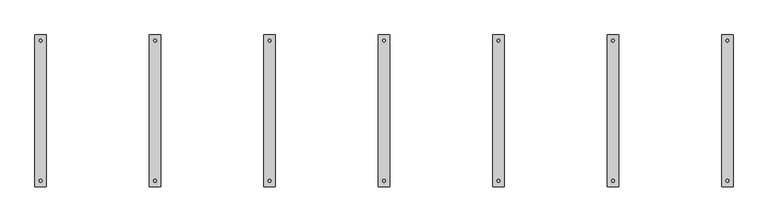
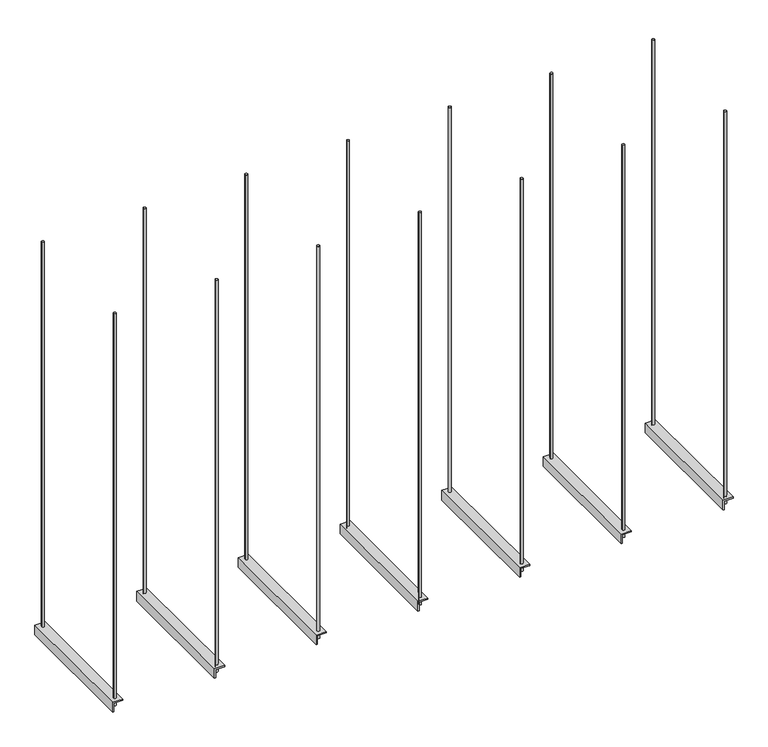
"""IFC4 building model written with IfcOpenShell, lengths in millimetres: damper geometry, 2015_Cuelgue-para-conductos-genérico : Cuelgue de conducto genérico."""

from ifc_helpers import new_model, si_unit, point, frame, frame_2d, origin, place, context, project, spatial, polyline, circle_curve, trimmed, segment, composite_curve, outline, extrude, source, transform, mapped, element, save


def damper_430598d1(model_context):
    return source(origin(), model_context, "Body", "SweptSolid", [
        extrude(outline(composite_curve([segment(trimmed(circle_curve(frame_2d((2400.0, 245.0)), 5.0), [point((2395.0, 245.0))], [point((2405.0, 245.0))], False, "CARTESIAN"), True, "CONTINUOUS"), segment(trimmed(circle_curve(frame_2d((2400.0, 245.0)), 5.0), [point((2405.0, 245.0))], [point((2395.0, 245.0))], False, "CARTESIAN"), True, "CONTINUOUS")], self_intersect=False)), frame((0.0, 0.0, -30.0), z_axis=(0.0, 0.0, 1.0), x_axis=(1.0, 0.0, 0.0)), (0.0, 0.0, 1.0), 1630.0),
        extrude(outline(composite_curve([segment(trimmed(circle_curve(frame_2d((2400.0, -245.0)), 5.0), [point((2395.0, -245.0))], [point((2405.0, -245.0))], False, "CARTESIAN"), True, "CONTINUOUS"), segment(trimmed(circle_curve(frame_2d((2400.0, -245.0)), 5.0), [point((2405.0, -245.0))], [point((2395.0, -245.0))], False, "CARTESIAN"), True, "CONTINUOUS")], self_intersect=False)), frame((0.0, 0.0, -30.0), z_axis=(0.0, 0.0, 1.0), x_axis=(1.0, 0.0, 0.0)), (0.0, 0.0, 1.0), 1630.0),
        extrude(outline(polyline([(0.0, 2380.0), (-40.0, 2380.0), (-40.0, 2385.0), (-5.0, 2385.0), (-5.0, 2420.0), (0.0, 2420.0), (0.0, 2380.0)])), frame((0.0, -265.0, 0.0), z_axis=(0.0, 1.0, 0.0), x_axis=(0.0, 0.0, 1.0)), (0.0, 0.0, 1.0), 530.0),
        extrude(outline(composite_curve([segment(trimmed(circle_curve(frame_2d((2000.0, 245.0)), 5.0), [point((1995.0, 245.0))], [point((2005.0, 245.0))], False, "CARTESIAN"), True, "CONTINUOUS"), segment(trimmed(circle_curve(frame_2d((2000.0, 245.0)), 5.0), [point((2005.0, 245.0))], [point((1995.0, 245.0))], False, "CARTESIAN"), True, "CONTINUOUS")], self_intersect=False)), frame((0.0, 0.0, -30.0), z_axis=(0.0, 0.0, 1.0), x_axis=(1.0, 0.0, 0.0)), (0.0, 0.0, 1.0), 1630.0),
        extrude(outline(composite_curve([segment(trimmed(circle_curve(frame_2d((2000.0, -245.0)), 5.0), [point((1995.0, -245.0))], [point((2005.0, -245.0))], False, "CARTESIAN"), True, "CONTINUOUS"), segment(trimmed(circle_curve(frame_2d((2000.0, -245.0)), 5.0), [point((2005.0, -245.0))], [point((1995.0, -245.0))], False, "CARTESIAN"), True, "CONTINUOUS")], self_intersect=False)), frame((0.0, 0.0, -30.0), z_axis=(0.0, 0.0, 1.0), x_axis=(1.0, 0.0, 0.0)), (0.0, 0.0, 1.0), 1630.0),
        extrude(outline(polyline([(0.0, 1980.0), (-40.0, 1980.0), (-40.0, 1985.0), (-5.0, 1985.0), (-5.0, 2020.0), (0.0, 2020.0), (0.0, 1980.0)])), frame((0.0, -265.0, 0.0), z_axis=(0.0, 1.0, 0.0), x_axis=(0.0, 0.0, 1.0)), (0.0, 0.0, 1.0), 530.0),
        extrude(outline(composite_curve([segment(trimmed(circle_curve(frame_2d((1600.0, 245.0)), 5.0), [point((1595.0, 245.0))], [point((1605.0, 245.0))], False, "CARTESIAN"), True, "CONTINUOUS"), segment(trimmed(circle_curve(frame_2d((1600.0, 245.0)), 5.0), [point((1605.0, 245.0))], [point((1595.0, 245.0))], False, "CARTESIAN"), True, "CONTINUOUS")], self_intersect=False)), frame((0.0, 0.0, -30.0), z_axis=(0.0, 0.0, 1.0), x_axis=(1.0, 0.0, 0.0)), (0.0, 0.0, 1.0), 1630.0),
        extrude(outline(composite_curve([segment(trimmed(circle_curve(frame_2d((1600.0, -245.0)), 5.0), [point((1595.0, -245.0))], [point((1605.0, -245.0))], False, "CARTESIAN"), True, "CONTINUOUS"), segment(trimmed(circle_curve(frame_2d((1600.0, -245.0)), 5.0), [point((1605.0, -245.0))], [point((1595.0, -245.0))], False, "CARTESIAN"), True, "CONTINUOUS")], self_intersect=False)), frame((0.0, 0.0, -30.0), z_axis=(0.0, 0.0, 1.0), x_axis=(1.0, 0.0, 0.0)), (0.0, 0.0, 1.0), 1630.0),
        extrude(outline(polyline([(0.0, 1580.0), (-40.0, 1580.0), (-40.0, 1585.0), (-5.0, 1585.0), (-5.0, 1620.0), (0.0, 1620.0), (0.0, 1580.0)])), frame((0.0, -265.0, 0.0), z_axis=(0.0, 1.0, 0.0), x_axis=(0.0, 0.0, 1.0)), (0.0, 0.0, 1.0), 530.0),
        extrude(outline(composite_curve([segment(trimmed(circle_curve(frame_2d((1200.0, 245.0)), 5.0), [point((1195.0, 245.0))], [point((1205.0, 245.0))], False, "CARTESIAN"), True, "CONTINUOUS"), segment(trimmed(circle_curve(frame_2d((1200.0, 245.0)), 5.0), [point((1205.0, 245.0))], [point((1195.0, 245.0))], False, "CARTESIAN"), True, "CONTINUOUS")], self_intersect=False)), frame((0.0, 0.0, -30.0), z_axis=(0.0, 0.0, 1.0), x_axis=(1.0, 0.0, 0.0)), (0.0, 0.0, 1.0), 1630.0),
        extrude(outline(composite_curve([segment(trimmed(circle_curve(frame_2d((1200.0, -245.0)), 5.0), [point((1195.0, -245.0))], [point((1205.0, -245.0))], False, "CARTESIAN"), True, "CONTINUOUS"), segment(trimmed(circle_curve(frame_2d((1200.0, -245.0)), 5.0), [point((1205.0, -245.0))], [point((1195.0, -245.0))], False, "CARTESIAN"), True, "CONTINUOUS")], self_intersect=False)), frame((0.0, 0.0, -30.0), z_axis=(0.0, 0.0, 1.0), x_axis=(1.0, 0.0, 0.0)), (0.0, 0.0, 1.0), 1630.0),
        extrude(outline(polyline([(0.0, 1180.0), (-40.0, 1180.0), (-40.0, 1185.0), (-5.0, 1185.0), (-5.0, 1220.0), (0.0, 1220.0), (0.0, 1180.0)])), frame((0.0, -265.0, 0.0), z_axis=(0.0, 1.0, 0.0), x_axis=(0.0, 0.0, 1.0)), (0.0, 0.0, 1.0), 530.0),
        extrude(outline(composite_curve([segment(trimmed(circle_curve(frame_2d((800.0, 245.0)), 5.0), [point((795.0, 245.0))], [point((805.0, 245.0))], False, "CARTESIAN"), True, "CONTINUOUS"), segment(trimmed(circle_curve(frame_2d((800.0, 245.0)), 5.0), [point((805.0, 245.0))], [point((795.0, 245.0))], False, "CARTESIAN"), True, "CONTINUOUS")], self_intersect=False)), frame((0.0, 0.0, -30.0), z_axis=(0.0, 0.0, 1.0), x_axis=(1.0, 0.0, 0.0)), (0.0, 0.0, 1.0), 1630.0),
        extrude(outline(composite_curve([segment(trimmed(circle_curve(frame_2d((800.0, -245.0)), 5.0), [point((795.0, -245.0))], [point((805.0, -245.0))], False, "CARTESIAN"), True, "CONTINUOUS"), segment(trimmed(circle_curve(frame_2d((800.0, -245.0)), 5.0), [point((805.0, -245.0))], [point((795.0, -245.0))], False, "CARTESIAN"), True, "CONTINUOUS")], self_intersect=False)), frame((0.0, 0.0, -30.0), z_axis=(0.0, 0.0, 1.0), x_axis=(1.0, 0.0, 0.0)), (0.0, 0.0, 1.0), 1630.0),
        extrude(outline(polyline([(0.0, 780.0), (-40.0, 780.0), (-40.0, 785.0), (-5.0, 785.0), (-5.0, 820.0), (0.0, 820.0), (0.0, 780.0)])), frame((0.0, -265.0, 0.0), z_axis=(0.0, 1.0, 0.0), x_axis=(0.0, 0.0, 1.0)), (0.0, 0.0, 1.0), 530.0),
        extrude(outline(composite_curve([segment(trimmed(circle_curve(frame_2d((400.0, 245.0)), 5.0), [point((395.0, 245.0))], [point((405.0, 245.0))], False, "CARTESIAN"), True, "CONTINUOUS"), segment(trimmed(circle_curve(frame_2d((400.0, 245.0)), 5.0), [point((405.0, 245.0))], [point((395.0, 245.0))], False, "CARTESIAN"), True, "CONTINUOUS")], self_intersect=False)), frame((0.0, 0.0, -30.0), z_axis=(0.0, 0.0, 1.0), x_axis=(1.0, 0.0, 0.0)), (0.0, 0.0, 1.0), 1630.0),
        extrude(outline(composite_curve([segment(trimmed(circle_curve(frame_2d((400.0, -245.0)), 5.0), [point((395.0, -245.0))], [point((405.0, -245.0))], False, "CARTESIAN"), True, "CONTINUOUS"), segment(trimmed(circle_curve(frame_2d((400.0, -245.0)), 5.0), [point((405.0, -245.0))], [point((395.0, -245.0))], False, "CARTESIAN"), True, "CONTINUOUS")], self_intersect=False)), frame((0.0, 0.0, -30.0), z_axis=(0.0, 0.0, 1.0), x_axis=(1.0, 0.0, 0.0)), (0.0, 0.0, 1.0), 1630.0),
        extrude(outline(polyline([(0.0, 380.0), (-40.0, 380.0), (-40.0, 385.0), (-5.0, 385.0), (-5.0, 420.0), (0.0, 420.0), (0.0, 380.0)])), frame((0.0, -265.0, 0.0), z_axis=(0.0, 1.0, 0.0), x_axis=(0.0, 0.0, 1.0)), (0.0, 0.0, 1.0), 530.0),
        extrude(outline(composite_curve([segment(trimmed(circle_curve(frame_2d((0.0, 245.0)), 5.0), [point((-5.0, 245.0))], [point((5.0, 245.0))], False, "CARTESIAN"), True, "CONTINUOUS"), segment(trimmed(circle_curve(frame_2d((0.0, 245.0)), 5.0), [point((5.0, 245.0))], [point((-5.0, 245.0))], False, "CARTESIAN"), True, "CONTINUOUS")], self_intersect=False)), frame((0.0, 0.0, -30.0), z_axis=(0.0, 0.0, 1.0), x_axis=(1.0, 0.0, 0.0)), (0.0, 0.0, 1.0), 1630.0),
        extrude(outline(composite_curve([segment(trimmed(circle_curve(frame_2d((0.0, -245.0)), 5.0), [point((-5.0, -245.0))], [point((5.0, -245.0))], False, "CARTESIAN"), True, "CONTINUOUS"), segment(trimmed(circle_curve(frame_2d((0.0, -245.0)), 5.0), [point((5.0, -245.0))], [point((-5.0, -245.0))], False, "CARTESIAN"), True, "CONTINUOUS")], self_intersect=False)), frame((0.0, 0.0, -30.0), z_axis=(0.0, 0.0, 1.0), x_axis=(1.0, 0.0, 0.0)), (0.0, 0.0, 1.0), 1630.0),
        extrude(outline(polyline([(0.0, -20.0), (-40.0, -20.0), (-40.0, -15.0), (-5.0, -15.0), (-5.0, 20.0), (0.0, 20.0), (0.0, -20.0)])), frame((0.0, -265.0, 0.0), z_axis=(0.0, 1.0, 0.0), x_axis=(0.0, 0.0, 1.0)), (0.0, 0.0, 1.0), 530.0),
    ])


if __name__ == "__main__":
    model = new_model("IFC4")
    model_context = context("Model", 3, world=origin())
    ifc_project = project(units=[si_unit("LENGTHUNIT", "METRE", prefix="MILLI")], contexts=[model_context])
    site = spatial("IfcSite", under=ifc_project)
    building = spatial("IfcBuilding", under=site)
    placement = place(None, origin())
    damper_shape = damper_430598d1(model_context)
    element("IfcDamper", 1, ObjectType="2015_Cuelgue-para-conductos-genérico : Cuelgue de conducto genérico", at=placement, inside=building, context=model_context, shape_type="MappedRepresentation", body=[
        mapped(damper_shape, transform((0.0, 0.0, 0.0), x_axis=(1.0, 0.0, 0.0), y_axis=(0.0, 1.0, 0.0), z_axis=(0.0, 0.0, 1.0))),
    ])
    save(model, "model.ifc")
